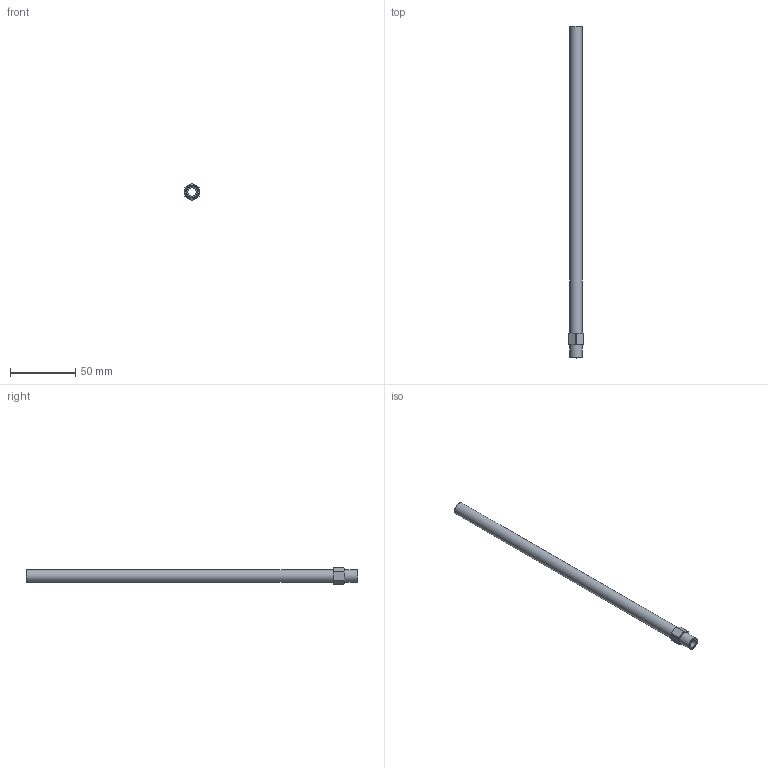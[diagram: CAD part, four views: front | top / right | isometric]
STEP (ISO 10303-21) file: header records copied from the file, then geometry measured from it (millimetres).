
FILE_DESCRIPTION(/* description */ (''),/* implementation_level */ '2;1');
FILE_NAME(/* name */ 'C:/Users/drich/Desktop/APN18-10 v1.step',/* time_stamp */ '2019-12-27T17:52:11-06:00',/* author */ (''),/* organization */ (''),/* preprocessor_version */ 'ST-DEVELOPER v18',/* originating_system */ 'Autodesk Translation Framework v8.12.0.6',/* authorisation */ '');
FILE_SCHEMA (('AUTOMOTIVE_DESIGN { 1 0 10303 214 3 1 1 }'));
Length unit declared in the file: inch
Products named in the file (1): APN18-10
Bounding box: 11.07 x 254 x 12.7 mm (x, y, z)
Volume: 10707.4 mm3; surface area: 12931.2 mm2
Topology: 1 solids, 1 shells, 23 faces, 59 edges, 40 vertices
Faces by surface type: plane 10, cylinder 9, cone 4
Full cylindrical faces by diameter (mm): 6.35 x1, 9.621 x2
Entity records: 751 total; most frequent: CARTESIAN_POINT 147, DIRECTION 123, ORIENTED_EDGE 118, EDGE_CURVE 59, AXIS2_PLACEMENT_3D 52, VERTEX_POINT 40, CIRCLE 28, EDGE_LOOP 27
